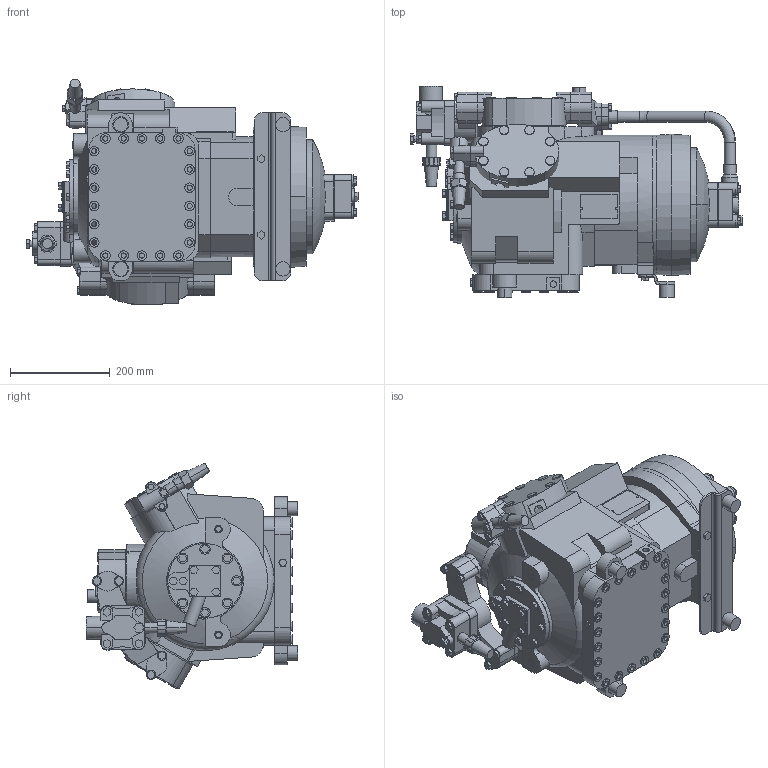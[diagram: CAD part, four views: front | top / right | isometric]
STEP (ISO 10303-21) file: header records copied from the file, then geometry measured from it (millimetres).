
FILE_DESCRIPTION((''),'2;1');
FILE_NAME('06D6CCL9F_SV4','2004-01-23T',('girish.c'),(''),'PRO/ENGINEER BY PARAMETRIC TECHNOLOGY CORPORATION, 2003161','PRO/ENGINEER BY PARAMETRIC TECHNOLOGY CORPORATION, 2003161','');
FILE_SCHEMA(('CONFIG_CONTROL_DESIGN','SHAPE_APPEARANCE_LAYERS_GROUPS'));
Length unit declared in the file: inch
Products named in the file (1): 06D6CCL9F_SV4
Bounding box: 665.07 x 423.6 x 452.5 mm (x, y, z)
Surface area: 1402767 mm2 (no closed solid volume)
Topology: 0 solids, 65 shells, 1093 faces, 3129 edges, 2161 vertices
Faces by surface type: plane 652, cylinder 388, cone 42, sphere 5, torus 5, extrusion 1
Entity records: 48855 total; most frequent: CARTESIAN_POINT 8124, DIRECTION 6158, ORIENTED_EDGE 5595, PRESENTATION_STYLE_ASSIGNMENT 3422, STYLED_ITEM 3185, CURVE_STYLE 3129, EDGE_CURVE 3129, AXIS2_PLACEMENT_3D 2176
